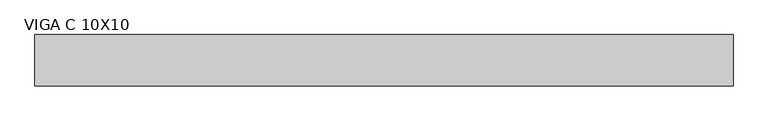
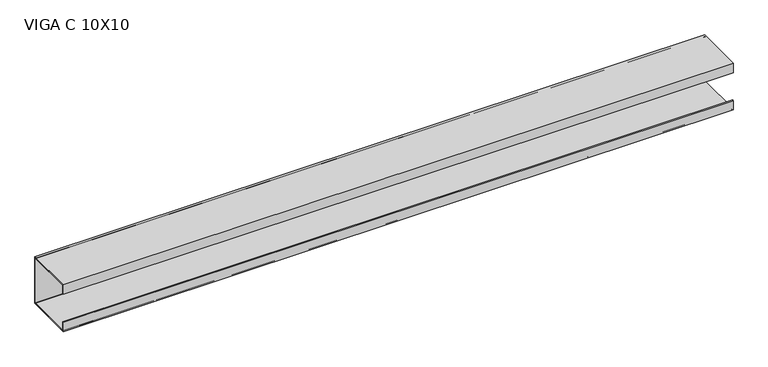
"""IFC4 building model written with IfcOpenShell, lengths in millimetres: beam geometry, VIGA PERFIL C AÇO : VIGA C 10X10."""

from ifc_helpers import new_model, si_unit, point, frame, frame_2d, origin, place, context, project, spatial, polyline, circle_curve, trimmed, segment, composite_curve, outline, extrude, source, transform, mapped, element, save


def viga_c_10x10_dd512e1a(model_context):
    return source(origin(), model_context, "Body", "SweptSolid", [
        extrude(outline(polyline([(9.2, -50.0), (-90.8, -50.0), (-90.8, -30.0), (-88.9, -30.0), (-88.9, -48.1), (7.3, -48.1), (7.3, 48.1), (-88.9, 48.1), (-88.9, 30.0), (-90.8, 30.0), (-90.8, 50.0), (9.2, 50.0), (9.2, -50.0)])), frame((-651.0, 0.0, 0.0), z_axis=(1.0, 0.0, 0.0), x_axis=(0.0, 1.0, 0.0)), (0.0, 0.0, 1.0), 1358.0),
        extrude(outline(composite_curve([segment(trimmed(circle_curve(frame_2d((5.4, -46.2)), 3.8), [point((9.2, -46.2))], [point((5.4, -50.0))], False, "CARTESIAN"), True, "CONTINUOUS"), segment(polyline([(5.4, -50.0), (-87.0, -50.0)]), True, "CONTINUOUS"), segment(trimmed(circle_curve(frame_2d((-87.0, -46.2)), 3.8), [point((-87.0, -50.0))], [point((-90.8, -46.2))], False, "CARTESIAN"), True, "CONTINUOUS"), segment(polyline([(-90.8, -46.2), (-90.8, -30.0), (-88.9, -30.0), (-88.9, -46.2)]), True, "CONTINUOUS"), segment(trimmed(circle_curve(frame_2d((-87.0, -46.2)), 1.9), [point((-88.9, -46.2))], [point((-87.0, -48.1))], True, "CARTESIAN"), True, "CONTINUOUS"), segment(polyline([(-87.0, -48.1), (5.4, -48.1)]), True, "CONTINUOUS"), segment(trimmed(circle_curve(frame_2d((5.4, -46.2)), 1.9), [point((5.4, -48.1))], [point((7.3, -46.2))], True, "CARTESIAN"), True, "CONTINUOUS"), segment(polyline([(7.3, -46.2), (7.3, 46.2)]), True, "CONTINUOUS"), segment(trimmed(circle_curve(frame_2d((5.4, 46.2)), 1.9), [point((7.3, 46.2))], [point((5.4, 48.1))], True, "CARTESIAN"), True, "CONTINUOUS"), segment(polyline([(5.4, 48.1), (-87.0, 48.1)]), True, "CONTINUOUS"), segment(trimmed(circle_curve(frame_2d((-87.0, 46.2)), 1.9), [point((-87.0, 48.1))], [point((-88.9, 46.2))], True, "CARTESIAN"), True, "CONTINUOUS"), segment(polyline([(-88.9, 46.2), (-88.9, 30.0), (-90.8, 30.0), (-90.8, 46.2)]), True, "CONTINUOUS"), segment(trimmed(circle_curve(frame_2d((-87.0, 46.2)), 3.8), [point((-90.8, 46.2))], [point((-87.0, 50.0))], False, "CARTESIAN"), True, "CONTINUOUS"), segment(polyline([(-87.0, 50.0), (5.4, 50.0)]), True, "CONTINUOUS"), segment(trimmed(circle_curve(frame_2d((5.4, 46.2)), 3.8), [point((5.4, 50.0))], [point((9.2, 46.2))], False, "CARTESIAN"), True, "CONTINUOUS"), segment(polyline([(9.2, 46.2), (9.2, -46.2)]), True, "CONTINUOUS")], self_intersect=False)), frame((-651.0, 0.0, 0.0), z_axis=(1.0, 0.0, 0.0), x_axis=(0.0, 1.0, 0.0)), (0.0, 0.0, 1.0), 1358.0),
    ])


if __name__ == "__main__":
    model = new_model("IFC4")
    model_context = context("Model", 3, world=origin())
    ifc_project = project(units=[si_unit("LENGTHUNIT", "METRE", prefix="MILLI")], contexts=[model_context])
    site = spatial("IfcSite", under=ifc_project)
    building = spatial("IfcBuilding", under=site)
    placement = place(None, origin())
    viga_c_10x10_shape = viga_c_10x10_dd512e1a(model_context)
    element("IfcBeam", 1, ObjectType="VIGA PERFIL C AÇO : VIGA C 10X10", at=placement, inside=building, context=model_context, shape_type="MappedRepresentation", body=[
        mapped(viga_c_10x10_shape, transform((0.0, 0.0, 0.0), x_axis=(1.0, 0.0, 0.0), y_axis=(0.0, 1.0, 0.0), z_axis=(0.0, 0.0, 1.0))),
    ])
    save(model, "model.ifc")
